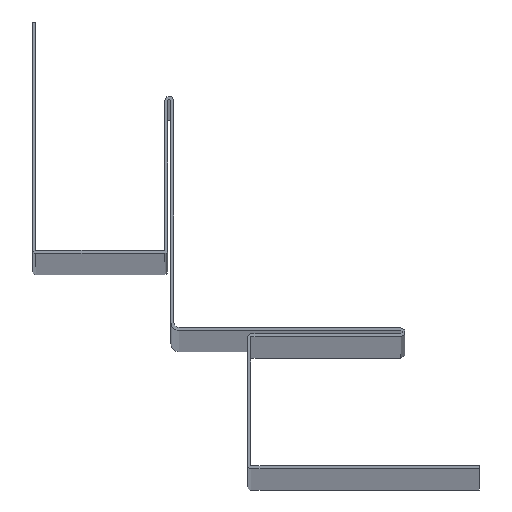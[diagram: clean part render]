
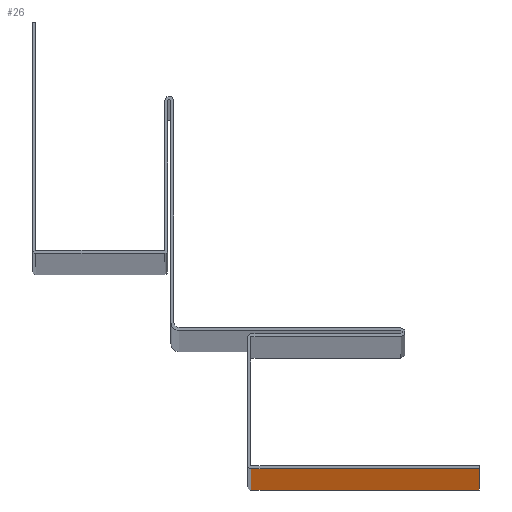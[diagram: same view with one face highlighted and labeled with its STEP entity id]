
A CAD part, top view. The second image highlights one B-rep face of the part: STEP entity #26.
In plain terms, the highlighted planar face has unit normal (0, -1, 0).
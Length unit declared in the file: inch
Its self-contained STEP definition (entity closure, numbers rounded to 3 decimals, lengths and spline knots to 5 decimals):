
#10 = EDGE_CURVE ( 'NONE', #1130, #721, #1048, .T. ) ;
#26 = ADVANCED_FACE ( 'NONE', ( #368 ), #601, .F. ) ;
#117 = VERTEX_POINT ( 'NONE', #540 ) ;
#143 = CARTESIAN_POINT ( 'NONE',  ( 0.505, -0.895, 78.74016 ) ) ;
#170 = DIRECTION ( 'NONE',  ( 0., 0., -1. ) ) ;
#197 = LINE ( 'NONE', #728, #296 ) ;
#296 = VECTOR ( 'NONE', #170, 39.37008 ) ;
#299 = CARTESIAN_POINT ( 'NONE',  ( 0.505, -0.895, 78.74016 ) ) ;
#306 = CARTESIAN_POINT ( 'NONE',  ( 0.505, -0.895, 78.74016 ) ) ;
#314 = EDGE_CURVE ( 'NONE', #744, #1130, #862, .T. ) ;
#315 = DIRECTION ( 'NONE',  ( 1., 0., 0. ) ) ;
#335 = CARTESIAN_POINT ( 'NONE',  ( 1.985, -0.895, 78.74016 ) ) ;
#338 = DIRECTION ( 'NONE',  ( 1., 0., 0. ) ) ;
#340 = ORIENTED_EDGE ( 'NONE', *, *, #583, .T. ) ;
#348 = LINE ( 'NONE', #1114, #1049 ) ;
#357 = DIRECTION ( 'NONE',  ( 0., 0., 1. ) ) ;
#368 = FACE_OUTER_BOUND ( 'NONE', #560, .T. ) ;
#372 = VECTOR ( 'NONE', #939, 39.37008 ) ;
#433 = ORIENTED_EDGE ( 'NONE', *, *, #10, .F. ) ;
#504 = VECTOR ( 'NONE', #338, 39.37008 ) ;
#540 = CARTESIAN_POINT ( 'NONE',  ( 0.505, -0.895, 0. ) ) ;
#560 = EDGE_LOOP ( 'NONE', ( #340, #433, #932, #658 ) ) ;
#583 = EDGE_CURVE ( 'NONE', #117, #721, #348, .T. ) ;
#601 = PLANE ( 'NONE',  #834 ) ;
#658 = ORIENTED_EDGE ( 'NONE', *, *, #979, .T. ) ;
#721 = VERTEX_POINT ( 'NONE', #946 ) ;
#728 = CARTESIAN_POINT ( 'NONE',  ( 0.505, -0.895, 78.74016 ) ) ;
#744 = VERTEX_POINT ( 'NONE', #306 ) ;
#834 = AXIS2_PLACEMENT_3D ( 'NONE', #143, #907, #357 ) ;
#862 = LINE ( 'NONE', #299, #504 ) ;
#907 = DIRECTION ( 'NONE',  ( 0., 1., 0. ) ) ;
#932 = ORIENTED_EDGE ( 'NONE', *, *, #314, .F. ) ;
#939 = DIRECTION ( 'NONE',  ( 0., 0., -1. ) ) ;
#946 = CARTESIAN_POINT ( 'NONE',  ( 1.985, -0.895, 0. ) ) ;
#979 = EDGE_CURVE ( 'NONE', #744, #117, #197, .T. ) ;
#1048 = LINE ( 'NONE', #335, #372 ) ;
#1049 = VECTOR ( 'NONE', #315, 39.37008 ) ;
#1077 = CARTESIAN_POINT ( 'NONE',  ( 1.985, -0.895, 78.74016 ) ) ;
#1114 = CARTESIAN_POINT ( 'NONE',  ( 0.505, -0.895, 0. ) ) ;
#1130 = VERTEX_POINT ( 'NONE', #1077 ) ;
